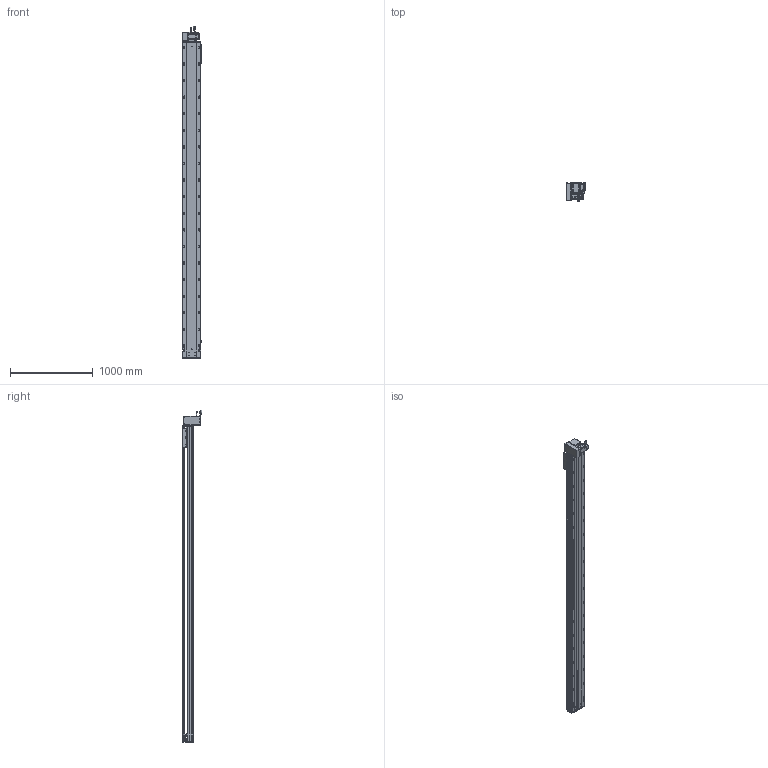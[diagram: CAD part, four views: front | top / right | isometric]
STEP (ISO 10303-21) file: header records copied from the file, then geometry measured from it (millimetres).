
FILE_DESCRIPTION (( 'STEP AP203' ), '1' );
FILE_NAME ('RY220-T-300-DL.SLDASM_3450.step', '2022-07-25T07:56:09', ( '' ), ( '' ), 'SwSTEP 2.0', 'SolidWorks 2016', '' );
FILE_SCHEMA (( 'CONFIG_CONTROL_DESIGN' ));
Length unit declared in the file: millimetre
Products named in the file (14): RY220翋肮祭謫裔啣; 怢湛750W_ECMA-CX0807ES; RY220圉猾敕々湍臏賑輸; 覜茼ん672; RY220-T-湍謫欶(鍼踢); RY220-俋离672覜茼んえ; RY220-同步轮副支撑座6304×2; RY220-T菁釱-300_3450; 滅袉蝶18-15; RY220-T-蛌殏萇儂假蚾啣(750W); RY220-T-300-奻裔啣_3450; RY220翋肮祭謫釱; 110A-T-肮祭謫釱傷裔; RY220-T-300-DL.SLDASM_3450
Assembly tree (18 placements, depth 2):
  RY220-T-300-DL.SLDASM_3450
    RY220-T菁釱-300_3450
    RY220翋肮祭謫釱
    覜茼ん672  x3
    RY220圉猾敕々湍臏賑輸
    RY220-T-300-奻裔啣_3450
    RY220-俋离672覜茼んえ
    滅袉蝶18-15  x3
    RY220翋肮祭謫裔啣  x2
    110A-T-肮祭謫釱傷裔
    怢湛750W_ECMA-CX0807ES
    RY220-T-湍謫欶(鍼踢)
    RY220-T-蛌殏萇儂假蚾啣(750W)
    RY220-同步轮副支撑座6304×2
Bounding box: 239.7 x 240.74 x 4003.27 mm (x, y, z)
Volume: 28111799.6 mm3; surface area: 8749335.8 mm2
Topology: 19 solids, 19 shells, 3134 faces, 8679 edges, 5416 vertices
Faces by surface type: cylinder 1570, plane 1069, cone 413, bspline 56, sphere 16, torus 10
Entity records: 104659 total; most frequent: CARTESIAN_POINT 29445, ORIENTED_EDGE 15514, DIRECTION 15072, EDGE_CURVE 7757, AXIS2_PLACEMENT_3D 5472, VERTEX_POINT 5040, VECTOR 4128, LINE 4128
